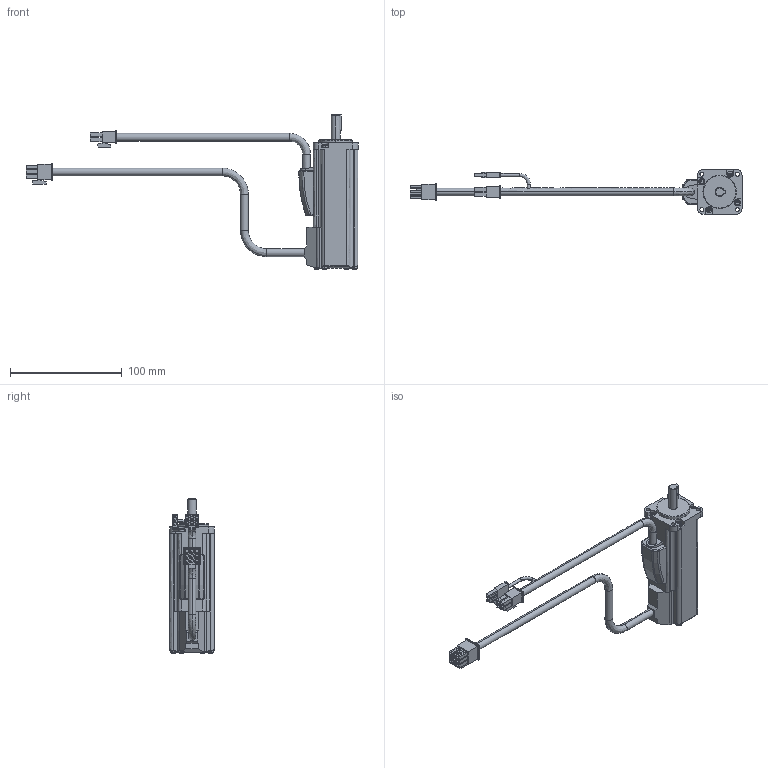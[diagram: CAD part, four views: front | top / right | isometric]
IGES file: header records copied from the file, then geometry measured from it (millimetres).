
Start section:  PTC IGES file: 10001021_rsmz-a5bq-bh_brake.igs
Global section: file name: 10001021_rsmz-a5bq-bh_brake.igs; native system: Pro/ENGINEER by Parametric Technology Corporation; preprocessor: 2004440; author: Administrator; organization: Unknown; date: 070829.201642; units: millimetre
Bounding box: 297.7 x 40 x 138.1 mm (x, y, z)
Volume: 195663.4 mm3; surface area: 39866.4 mm2
Topology: 1 solids, 1 shells, 505 faces, 1272 edges, 824 vertices
Faces by surface type: bspline 365, revolution 140
